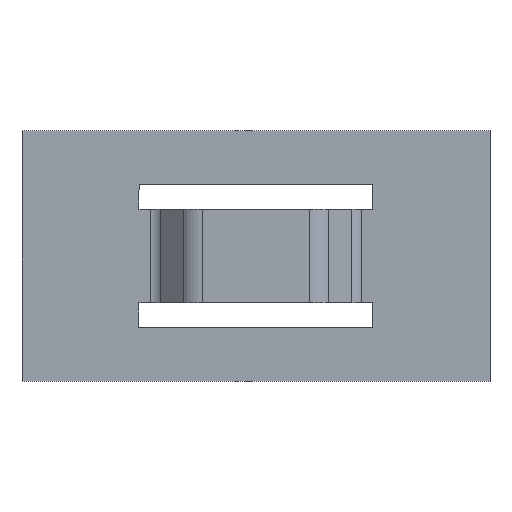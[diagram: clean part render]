
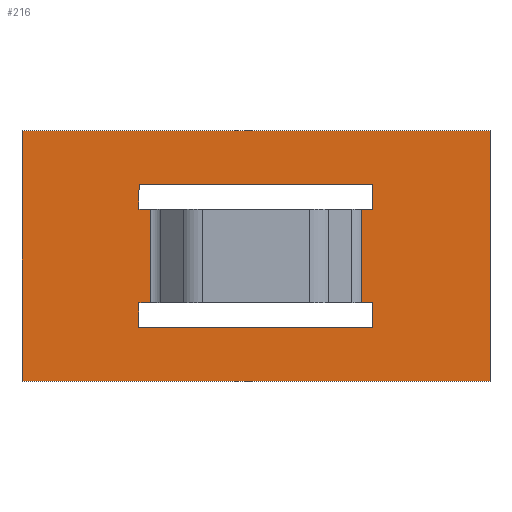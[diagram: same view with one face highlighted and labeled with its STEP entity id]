
A CAD part, top view. The second image highlights one B-rep face of the part: STEP entity #216.
In plain terms, the highlighted planar face has unit normal (0, 0, 1).
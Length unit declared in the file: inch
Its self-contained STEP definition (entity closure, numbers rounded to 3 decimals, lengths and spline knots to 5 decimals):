
#24=CARTESIAN_POINT('',(4.45,0.236,20.45));
#25=VERTEX_POINT('',#24);
#34=CARTESIAN_POINT('',(4.45,-0.836,20.45));
#35=VERTEX_POINT('',#34);
#36=CARTESIAN_POINT('',(4.45,8.01638,20.45));
#37=DIRECTION('',(0.,1.,0.));
#38=VECTOR('',#37,1.);
#39=LINE('',#36,#38);
#40=EDGE_CURVE('',#35,#25,#39,.T.);
#65=CARTESIAN_POINT('',(2.45,-0.836,20.45));
#66=VERTEX_POINT('',#65);
#67=CARTESIAN_POINT('',(-5.84419,-0.836,20.45));
#68=DIRECTION('',(1.,0.,0.));
#69=VECTOR('',#68,1.);
#70=LINE('',#67,#69);
#71=EDGE_CURVE('',#66,#35,#70,.T.);
#95=ORIENTED_EDGE('',*,*,#40,.T.);
#96=CARTESIAN_POINT('',(2.45,0.236,20.45));
#97=VERTEX_POINT('',#96);
#98=CARTESIAN_POINT('',(6.467,0.236,20.45));
#99=DIRECTION('',(-1.,0.,0.));
#100=VECTOR('',#99,4.5);
#101=LINE('',#98,#100);
#102=EDGE_CURVE('',#25,#97,#101,.T.);
#103=ORIENTED_EDGE('',*,*,#102,.T.);
#104=CARTESIAN_POINT('',(2.45,11.77638,20.45));
#105=DIRECTION('',(0.,-1.,0.));
#106=VECTOR('',#105,1.);
#107=LINE('',#104,#106);
#108=EDGE_CURVE('',#97,#66,#107,.T.);
#109=ORIENTED_EDGE('',*,*,#108,.T.);
#110=ORIENTED_EDGE('',*,*,#71,.T.);
#111=EDGE_LOOP('',(#95,#103,#109,#110));
#112=FACE_OUTER_BOUND('',#111,.T.);
#113=CARTESIAN_POINT('',(3.94978,-0.605,20.45));
#114=VERTEX_POINT('',#113);
#115=CARTESIAN_POINT('',(2.94978,-0.605,20.45));
#116=VERTEX_POINT('',#115);
#117=CARTESIAN_POINT('',(3.94978,-0.605,20.45));
#118=DIRECTION('',(-1.,0.,0.));
#119=VECTOR('',#118,0.04822);
#120=LINE('',#117,#119);
#121=EDGE_CURVE('',#114,#116,#120,.T.);
#122=ORIENTED_EDGE('',*,*,#121,.T.);
#123=CARTESIAN_POINT('',(2.94978,-0.5,20.45));
#124=VERTEX_POINT('',#123);
#125=CARTESIAN_POINT('',(2.94978,-0.598,20.45));
#126=DIRECTION('',(0.,-1.,0.));
#127=VECTOR('',#126,0.007);
#128=LINE('',#125,#127);
#129=EDGE_CURVE('',#124,#116,#128,.T.);
#130=ORIENTED_EDGE('',*,*,#129,.F.);
#131=CARTESIAN_POINT('',(2.99822,-0.5,20.45));
#132=VERTEX_POINT('',#131);
#133=CARTESIAN_POINT('',(2.99822,-0.5,20.45));
#134=DIRECTION('',(-1.,0.,0.));
#135=VECTOR('',#134,1.69822);
#136=LINE('',#133,#135);
#137=EDGE_CURVE('',#132,#124,#136,.T.);
#138=ORIENTED_EDGE('',*,*,#137,.F.);
#139=CARTESIAN_POINT('',(2.99822,-0.1,20.45));
#140=VERTEX_POINT('',#139);
#141=CARTESIAN_POINT('',(2.99822,-0.1,20.45));
#142=DIRECTION('',(0.,-1.,0.));
#143=VECTOR('',#142,0.4);
#144=LINE('',#141,#143);
#145=EDGE_CURVE('',#140,#132,#144,.T.);
#146=ORIENTED_EDGE('',*,*,#145,.F.);
#147=CARTESIAN_POINT('',(2.95,-0.1,20.45));
#148=VERTEX_POINT('',#147);
#149=CARTESIAN_POINT('',(2.99822,-0.1,20.45));
#150=DIRECTION('',(-1.,0.,0.));
#151=VECTOR('',#150,0.04822);
#152=LINE('',#149,#151);
#153=EDGE_CURVE('',#140,#148,#152,.T.);
#154=ORIENTED_EDGE('',*,*,#153,.T.);
#155=CARTESIAN_POINT('',(2.95,0.005,20.45));
#156=VERTEX_POINT('',#155);
#157=CARTESIAN_POINT('',(2.95,-0.093,20.45));
#158=DIRECTION('',(0.,-1.,0.));
#159=VECTOR('',#158,0.007);
#160=LINE('',#157,#159);
#161=EDGE_CURVE('',#156,#148,#160,.T.);
#162=ORIENTED_EDGE('',*,*,#161,.F.);
#163=CARTESIAN_POINT('',(3.95,0.005,20.45));
#164=VERTEX_POINT('',#163);
#165=CARTESIAN_POINT('',(2.95,0.005,20.45));
#166=DIRECTION('',(1.,0.,0.));
#167=VECTOR('',#166,1.);
#168=LINE('',#165,#167);
#169=EDGE_CURVE('',#156,#164,#168,.T.);
#170=ORIENTED_EDGE('',*,*,#169,.T.);
#171=CARTESIAN_POINT('',(3.95,-0.1,20.45));
#172=VERTEX_POINT('',#171);
#173=CARTESIAN_POINT('',(3.95,-0.093,20.45));
#174=DIRECTION('',(0.,-1.,0.));
#175=VECTOR('',#174,0.007);
#176=LINE('',#173,#175);
#177=EDGE_CURVE('',#164,#172,#176,.T.);
#178=ORIENTED_EDGE('',*,*,#177,.T.);
#179=CARTESIAN_POINT('',(3.90178,-0.1,20.45));
#180=VERTEX_POINT('',#179);
#181=CARTESIAN_POINT('',(3.95,-0.1,20.45));
#182=DIRECTION('',(-1.,0.,0.));
#183=VECTOR('',#182,0.04822);
#184=LINE('',#181,#183);
#185=EDGE_CURVE('',#172,#180,#184,.T.);
#186=ORIENTED_EDGE('',*,*,#185,.T.);
#187=CARTESIAN_POINT('',(3.90178,-0.5,20.45));
#188=VERTEX_POINT('',#187);
#189=CARTESIAN_POINT('',(3.90178,-0.1,20.45));
#190=DIRECTION('',(0.,-1.,0.));
#191=VECTOR('',#190,0.4);
#192=LINE('',#189,#191);
#193=EDGE_CURVE('',#180,#188,#192,.T.);
#194=ORIENTED_EDGE('',*,*,#193,.T.);
#195=CARTESIAN_POINT('',(3.94978,-0.5,20.45));
#196=VERTEX_POINT('',#195);
#197=CARTESIAN_POINT('',(8.26201,-0.5,20.45));
#198=DIRECTION('',(1.,0.,0.));
#199=VECTOR('',#198,1.);
#200=LINE('',#197,#199);
#201=EDGE_CURVE('',#188,#196,#200,.T.);
#202=ORIENTED_EDGE('',*,*,#201,.T.);
#203=CARTESIAN_POINT('',(3.94978,-0.598,20.45));
#204=DIRECTION('',(0.,-1.,0.));
#205=VECTOR('',#204,0.007);
#206=LINE('',#203,#205);
#207=EDGE_CURVE('',#196,#114,#206,.T.);
#208=ORIENTED_EDGE('',*,*,#207,.T.);
#209=EDGE_LOOP('',(#122,#130,#138,#146,#154,#162,#170,#178,#186,#194,#202,#208));
#210=FACE_BOUND('',#209,.T.);
#211=CARTESIAN_POINT('',(0.45,0.,20.45));
#212=DIRECTION('',(0.,0.,1.));
#213=DIRECTION('',(0.,1.,0.));
#214=AXIS2_PLACEMENT_3D('',#211,#212,#213);
#215=PLANE('',#214);
#216=ADVANCED_FACE('',(#112,#210),#215,.T.);
